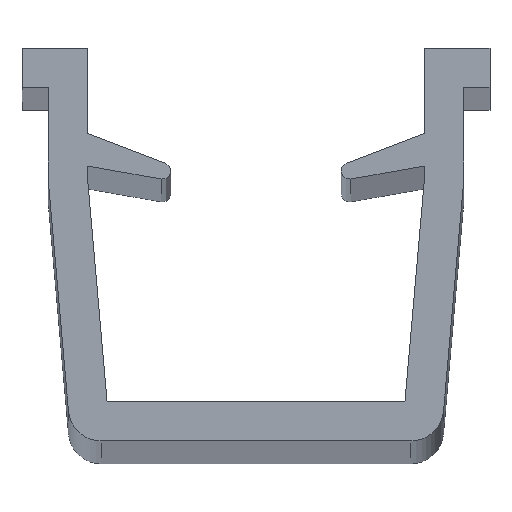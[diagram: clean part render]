
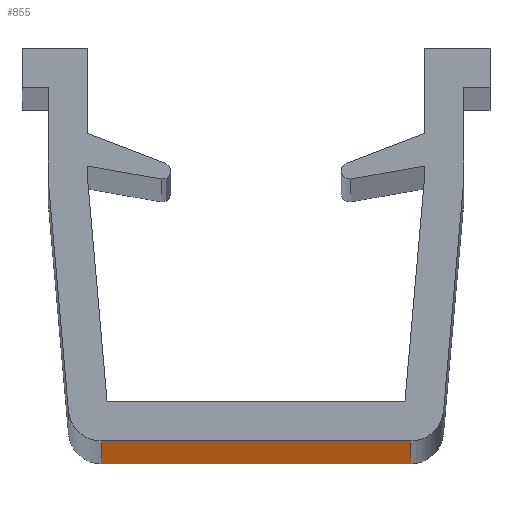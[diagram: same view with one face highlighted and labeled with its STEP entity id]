
A CAD part, top view. The second image highlights one B-rep face of the part: STEP entity #855.
In plain terms, the highlighted planar face has unit normal (0, -1, 0).
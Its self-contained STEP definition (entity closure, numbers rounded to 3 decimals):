
#77 = CARTESIAN_POINT ( 'NONE',  ( 2.367, 0., 0. ) ) ;
#92 = CARTESIAN_POINT ( 'NONE',  ( -2.825, 0., 200. ) ) ;
#96 = EDGE_CURVE ( 'NONE', #221, #350, #839, .T. ) ;
#108 = CARTESIAN_POINT ( 'NONE',  ( -2.367, 0., 200. ) ) ;
#156 = AXIS2_PLACEMENT_3D ( 'NONE', #304, #234, #169 ) ;
#158 = EDGE_CURVE ( 'NONE', #221, #941, #763, .T. ) ;
#160 = DIRECTION ( 'NONE',  ( 0., 0., 1. ) ) ;
#169 = DIRECTION ( 'NONE',  ( 0., 0., 1. ) ) ;
#211 = EDGE_CURVE ( 'NONE', #350, #820, #910, .T. ) ;
#221 = VERTEX_POINT ( 'NONE', #108 ) ;
#234 = DIRECTION ( 'NONE',  ( 0., 1., 0. ) ) ;
#251 = CARTESIAN_POINT ( 'NONE',  ( -2.367, 0., 0. ) ) ;
#265 = DIRECTION ( 'NONE',  ( 1., 0., 0. ) ) ;
#304 = CARTESIAN_POINT ( 'NONE',  ( -2.825, 0., 200. ) ) ;
#312 = CARTESIAN_POINT ( 'NONE',  ( -2.825, 0., 0. ) ) ;
#342 = ORIENTED_EDGE ( 'NONE', *, *, #211, .T. ) ;
#350 = VERTEX_POINT ( 'NONE', #251 ) ;
#418 = ORIENTED_EDGE ( 'NONE', *, *, #867, .T. ) ;
#457 = PLANE ( 'NONE',  #156 ) ;
#482 = VECTOR ( 'NONE', #160, 1000. ) ;
#486 = CARTESIAN_POINT ( 'NONE',  ( 2.367, 0., 200. ) ) ;
#508 = VECTOR ( 'NONE', #265, 1000. ) ;
#555 = ORIENTED_EDGE ( 'NONE', *, *, #96, .T. ) ;
#593 = VECTOR ( 'NONE', #915, 1000. ) ;
#603 = CARTESIAN_POINT ( 'NONE',  ( 2.367, 0., 200. ) ) ;
#612 = VECTOR ( 'NONE', #689, 1000. ) ;
#657 = ORIENTED_EDGE ( 'NONE', *, *, #158, .F. ) ;
#689 = DIRECTION ( 'NONE',  ( 1., 0., 0. ) ) ;
#763 = LINE ( 'NONE', #92, #508 ) ;
#772 = CARTESIAN_POINT ( 'NONE',  ( -2.367, 0., 200. ) ) ;
#818 = LINE ( 'NONE', #603, #482 ) ;
#820 = VERTEX_POINT ( 'NONE', #77 ) ;
#839 = LINE ( 'NONE', #772, #593 ) ;
#845 = EDGE_LOOP ( 'NONE', ( #657, #555, #342, #418 ) ) ;
#855 = ADVANCED_FACE ( 'NONE', ( #900 ), #457, .F. ) ;
#867 = EDGE_CURVE ( 'NONE', #820, #941, #818, .T. ) ;
#900 = FACE_OUTER_BOUND ( 'NONE', #845, .T. ) ;
#910 = LINE ( 'NONE', #312, #612 ) ;
#915 = DIRECTION ( 'NONE',  ( 0., 0., -1. ) ) ;
#941 = VERTEX_POINT ( 'NONE', #486 ) ;
